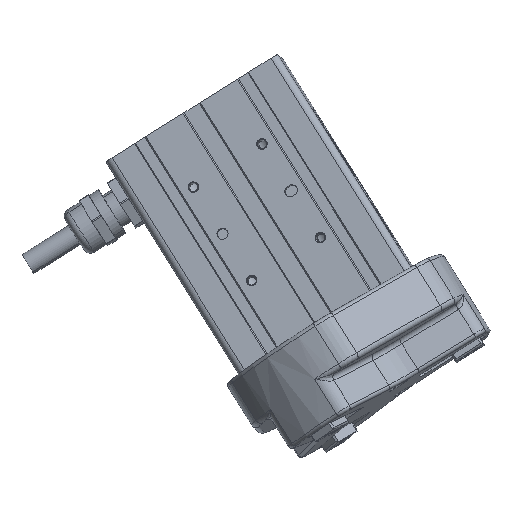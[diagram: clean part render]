
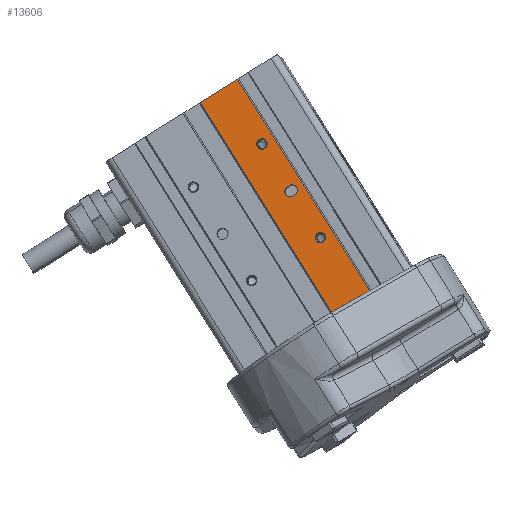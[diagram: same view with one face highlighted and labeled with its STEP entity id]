
A CAD part, front view. The second image highlights one B-rep face of the part: STEP entity #13606.
In plain terms, the highlighted planar face has unit normal (-0.053, -0.997, 0.052).
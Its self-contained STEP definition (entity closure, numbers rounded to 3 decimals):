
#12215=CARTESIAN_POINT('Vertex',(40.464,-21.286,52.27)) ;
#12218=CARTESIAN_POINT('Line Origine',(35.423,-21.186,49.111)) ;
#12222=CARTESIAN_POINT('Vertex',(30.381,-21.086,45.952)) ;
#13422=CARTESIAN_POINT('Axis2P3D Location',(-31.499,-15.62,87.799)) ;
#13503=CARTESIAN_POINT('Vertex',(4.254,-16.33,110.206)) ;
#13506=CARTESIAN_POINT('Line Origine',(22.359,-18.808,81.238)) ;
#13518=CARTESIAN_POINT('Line Origine',(-0.787,-16.229,107.047)) ;
#13522=CARTESIAN_POINT('Vertex',(-5.828,-16.129,103.887)) ;
#13525=CARTESIAN_POINT('Line Origine',(12.277,-18.608,74.92)) ;
#13536=CARTESIAN_POINT('Line Origine',(19.621,-18.8,78.639)) ;
#13540=CARTESIAN_POINT('Vertex',(19.832,-18.804,78.772)) ;
#13542=CARTESIAN_POINT('Vertex',(19.409,-18.796,78.506)) ;
#13545=CARTESIAN_POINT('Axis2P3D Location',(18.616,-18.687,79.775)) ;
#13549=CARTESIAN_POINT('Vertex',(17.823,-18.579,81.044)) ;
#13552=CARTESIAN_POINT('Line Origine',(18.035,-18.583,81.176)) ;
#13556=CARTESIAN_POINT('Vertex',(18.247,-18.587,81.309)) ;
#13559=CARTESIAN_POINT('Axis2P3D Location',(19.039,-18.696,80.04)) ;
#13570=CARTESIAN_POINT('Axis2P3D Location',(10.899,-17.606,92.594)) ;
#13574=CARTESIAN_POINT('Vertex',(10.816,-17.527,94.019)) ;
#13576=CARTESIAN_POINT('Vertex',(10.981,-17.685,91.169)) ;
#13579=CARTESIAN_POINT('Axis2P3D Location',(10.899,-17.606,92.594)) ;
#13588=CARTESIAN_POINT('Axis2P3D Location',(26.757,-19.777,67.221)) ;
#13592=CARTESIAN_POINT('Vertex',(26.839,-19.856,65.796)) ;
#13594=CARTESIAN_POINT('Vertex',(26.674,-19.697,68.646)) ;
#13597=CARTESIAN_POINT('Axis2P3D Location',(26.757,-19.777,67.221)) ;
#12219=DIRECTION('Vector Direction',(0.847,-0.017,0.531)) ;
#13423=DIRECTION('Axis2P3D Direction',(0.053,0.997,-0.052)) ;
#13424=DIRECTION('Axis2P3D XDirection',(0.847,-0.017,0.531)) ;
#13507=DIRECTION('Vector Direction',(-0.529,0.072,0.846)) ;
#13519=DIRECTION('Vector Direction',(0.847,-0.017,0.531)) ;
#13526=DIRECTION('Vector Direction',(0.529,-0.072,-0.846)) ;
#13537=DIRECTION('Vector Direction',(0.847,-0.017,0.531)) ;
#13546=DIRECTION('Axis2P3D Direction',(0.053,0.997,-0.052)) ;
#13553=DIRECTION('Vector Direction',(-0.847,0.017,-0.531)) ;
#13560=DIRECTION('Axis2P3D Direction',(0.053,0.997,-0.052)) ;
#13571=DIRECTION('Axis2P3D Direction',(0.053,0.997,-0.052)) ;
#13580=DIRECTION('Axis2P3D Direction',(0.053,0.997,-0.052)) ;
#13589=DIRECTION('Axis2P3D Direction',(0.053,0.997,-0.052)) ;
#13598=DIRECTION('Axis2P3D Direction',(0.053,0.997,-0.052)) ;
#13425=AXIS2_PLACEMENT_3D('Plane Axis2P3D',#13422,#13423,#13424) ;
#13547=AXIS2_PLACEMENT_3D('Circle Axis2P3D',#13545,#13546,$) ;
#13561=AXIS2_PLACEMENT_3D('Circle Axis2P3D',#13559,#13560,$) ;
#13572=AXIS2_PLACEMENT_3D('Circle Axis2P3D',#13570,#13571,$) ;
#13581=AXIS2_PLACEMENT_3D('Circle Axis2P3D',#13579,#13580,$) ;
#13590=AXIS2_PLACEMENT_3D('Circle Axis2P3D',#13588,#13589,$) ;
#13599=AXIS2_PLACEMENT_3D('Circle Axis2P3D',#13597,#13598,$) ;
#13531=ORIENTED_EDGE('',*,*,#13510,.F.) ;
#13532=ORIENTED_EDGE('',*,*,#13524,.T.) ;
#13533=ORIENTED_EDGE('',*,*,#13529,.T.) ;
#13534=ORIENTED_EDGE('',*,*,#12224,.F.) ;
#13565=ORIENTED_EDGE('',*,*,#13544,.T.) ;
#13566=ORIENTED_EDGE('',*,*,#13551,.T.) ;
#13567=ORIENTED_EDGE('',*,*,#13558,.T.) ;
#13568=ORIENTED_EDGE('',*,*,#13563,.T.) ;
#13585=ORIENTED_EDGE('',*,*,#13578,.T.) ;
#13586=ORIENTED_EDGE('',*,*,#13583,.T.) ;
#13603=ORIENTED_EDGE('',*,*,#13596,.T.) ;
#13604=ORIENTED_EDGE('',*,*,#13601,.T.) ;
#13569=FACE_BOUND('',#13564,.T.) ;
#13587=FACE_BOUND('',#13584,.T.) ;
#13605=FACE_BOUND('',#13602,.T.) ;
#12220=VECTOR('Line Direction',#12219,1.) ;
#13508=VECTOR('Line Direction',#13507,1.) ;
#13520=VECTOR('Line Direction',#13519,1.) ;
#13527=VECTOR('Line Direction',#13526,1.) ;
#13538=VECTOR('Line Direction',#13537,1.) ;
#13554=VECTOR('Line Direction',#13553,1.) ;
#13606=ADVANCED_FACE('\X2\96F64EF651E04F554F53\X0\',(#13535,#13569,#13587,#13605),#13426,.F.) ;
#13548=CIRCLE('generated circle',#13547,1.5) ;
#13562=CIRCLE('generated circle',#13561,1.5) ;
#13573=CIRCLE('generated circle',#13572,1.43) ;
#13582=CIRCLE('generated circle',#13581,1.43) ;
#13591=CIRCLE('generated circle',#13590,1.43) ;
#13600=CIRCLE('generated circle',#13599,1.43) ;
#12224=EDGE_CURVE('',#12216,#12223,#12221,.F.) ;
#13510=EDGE_CURVE('',#13504,#12216,#13509,.F.) ;
#13524=EDGE_CURVE('',#13504,#13523,#13521,.F.) ;
#13529=EDGE_CURVE('',#13523,#12223,#13528,.T.) ;
#13544=EDGE_CURVE('',#13541,#13543,#13539,.F.) ;
#13551=EDGE_CURVE('',#13543,#13550,#13548,.T.) ;
#13558=EDGE_CURVE('',#13550,#13557,#13555,.F.) ;
#13563=EDGE_CURVE('',#13557,#13541,#13562,.T.) ;
#13578=EDGE_CURVE('',#13575,#13577,#13573,.T.) ;
#13583=EDGE_CURVE('',#13577,#13575,#13582,.T.) ;
#13596=EDGE_CURVE('',#13593,#13595,#13591,.T.) ;
#13601=EDGE_CURVE('',#13595,#13593,#13600,.T.) ;
#13530=EDGE_LOOP('',(#13531,#13532,#13533,#13534)) ;
#13564=EDGE_LOOP('',(#13565,#13566,#13567,#13568)) ;
#13584=EDGE_LOOP('',(#13585,#13586)) ;
#13602=EDGE_LOOP('',(#13603,#13604)) ;
#13535=FACE_OUTER_BOUND('',#13530,.T.) ;
#12221=LINE('Line',#12218,#12220) ;
#13509=LINE('Line',#13506,#13508) ;
#13521=LINE('Line',#13518,#13520) ;
#13528=LINE('Line',#13525,#13527) ;
#13539=LINE('Line',#13536,#13538) ;
#13555=LINE('Line',#13552,#13554) ;
#13426=PLANE('Plane',#13425) ;
#12216=VERTEX_POINT('',#12215) ;
#12223=VERTEX_POINT('',#12222) ;
#13504=VERTEX_POINT('',#13503) ;
#13523=VERTEX_POINT('',#13522) ;
#13541=VERTEX_POINT('',#13540) ;
#13543=VERTEX_POINT('',#13542) ;
#13550=VERTEX_POINT('',#13549) ;
#13557=VERTEX_POINT('',#13556) ;
#13575=VERTEX_POINT('',#13574) ;
#13577=VERTEX_POINT('',#13576) ;
#13593=VERTEX_POINT('',#13592) ;
#13595=VERTEX_POINT('',#13594) ;
